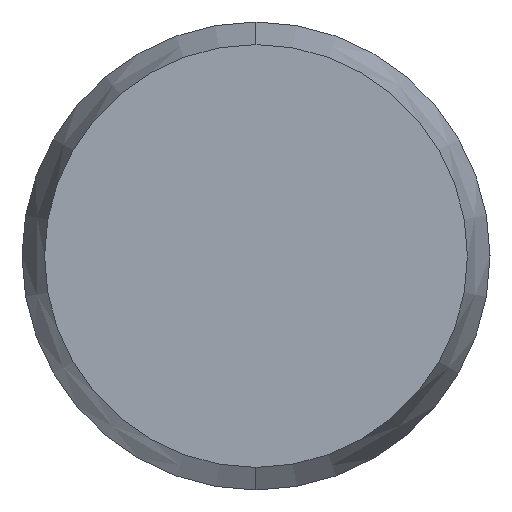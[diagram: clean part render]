
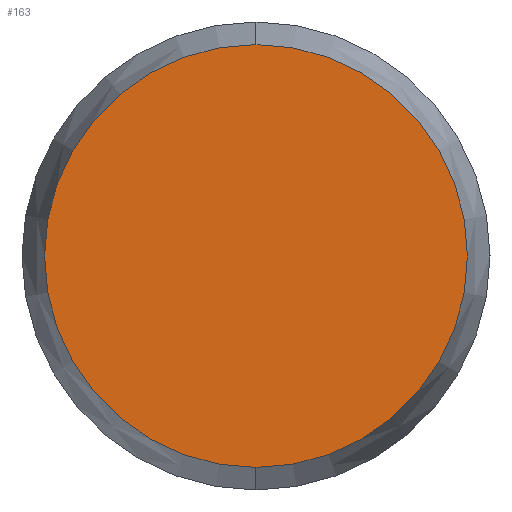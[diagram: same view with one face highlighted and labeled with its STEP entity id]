
A CAD part, left-side view. The second image highlights one B-rep face of the part: STEP entity #163.
In plain terms, the highlighted planar face has unit normal (-1, 0, 0).
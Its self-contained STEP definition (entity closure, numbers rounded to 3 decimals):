
#1 = FACE_OUTER_BOUND ( 'NONE', #152, .T. ) ;
#2 = CARTESIAN_POINT ( 'NONE',  ( -12., 0., -1.129 ) ) ;
#3 = CARTESIAN_POINT ( 'NONE',  ( -12., 0., 1.129 ) ) ;
#97 = CARTESIAN_POINT ( 'NONE',  ( -12., 0., 0. ) ) ;
#98 = AXIS2_PLACEMENT_3D ( 'NONE', #97, #104, #106 ) ;
#99 = CIRCLE ( 'NONE', #98, 1.129 ) ;
#104 = DIRECTION ( 'NONE',  ( 1., 0., 0. ) ) ;
#106 = DIRECTION ( 'NONE',  ( 0., 0., -1. ) ) ;
#152 = EDGE_LOOP ( 'NONE', ( #155, #156 ) ) ;
#155 = ORIENTED_EDGE ( 'NONE', *, *, #174, .F. ) ;
#156 = ORIENTED_EDGE ( 'NONE', *, *, #162, .F. ) ;
#162 = EDGE_CURVE ( 'NONE', #166, #165, #237, .T. ) ;
#163 = ADVANCED_FACE ( 'NONE', ( #1 ), #267, .F. ) ;
#165 = VERTEX_POINT ( 'NONE', #3 ) ;
#166 = VERTEX_POINT ( 'NONE', #2 ) ;
#174 = EDGE_CURVE ( 'NONE', #165, #166, #99, .T. ) ;
#237 = CIRCLE ( 'NONE', #250, 1.129 ) ;
#250 = AXIS2_PLACEMENT_3D ( 'NONE', #259, #266, #268 ) ;
#259 = CARTESIAN_POINT ( 'NONE',  ( -12., 0., 0. ) ) ;
#265 = DIRECTION ( 'NONE',  ( 0., 0., -1. ) ) ;
#266 = DIRECTION ( 'NONE',  ( 1., 0., 0. ) ) ;
#267 = PLANE ( 'NONE',  #269 ) ;
#268 = DIRECTION ( 'NONE',  ( 0., 0., -1. ) ) ;
#269 = AXIS2_PLACEMENT_3D ( 'NONE', #273, #272, #265 ) ;
#272 = DIRECTION ( 'NONE',  ( 1., 0., 0. ) ) ;
#273 = CARTESIAN_POINT ( 'NONE',  ( -12., 0., 0. ) ) ;
